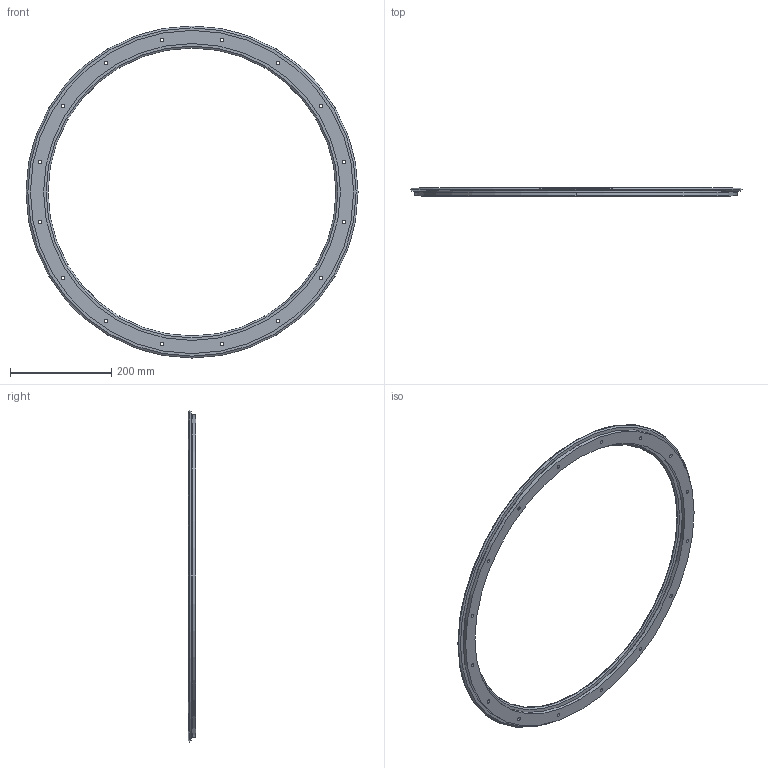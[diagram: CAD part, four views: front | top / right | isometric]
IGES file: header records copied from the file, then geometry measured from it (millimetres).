
Start section: 3D InterOp IGES (v. 2020 1.0.1), Spatial Corp. Copyright (c) 1999-2017.
Global section: file name: r44_612_r360.igs; native system: Spatial Corp.; preprocessor: 3D InterOp ACIS/IGES; author: TraceParts; organization: TraceParts S.A.; date: 20220624.070614; units: millimetre
Bounding box: 655.61 x 15.5 x 655.61 mm (x, y, z)
Surface area: 238716.8 mm2 (no closed solid volume)
Topology: 0 solids, 0 shells, 110 faces, 504 edges, 504 vertices
Faces by surface type: revolution 88, extrusion 22
